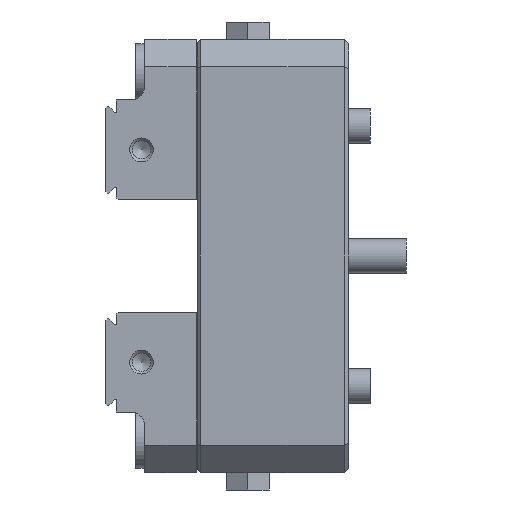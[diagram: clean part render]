
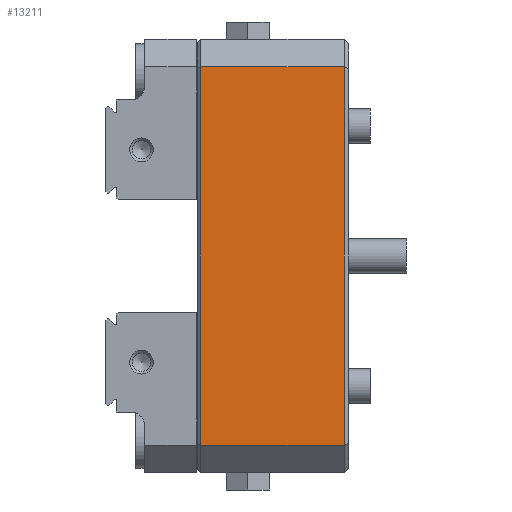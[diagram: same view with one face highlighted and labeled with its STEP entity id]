
A CAD part, left-side view. The second image highlights one B-rep face of the part: STEP entity #13211.
In plain terms, the highlighted planar face has unit normal (-1, 0, 0).
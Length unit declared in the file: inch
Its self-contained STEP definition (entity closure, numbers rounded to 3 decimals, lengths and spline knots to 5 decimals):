
#289 = CARTESIAN_POINT ( 'NONE',  ( -1.47638, 0., -1.7185 ) ) ;
#307 = EDGE_CURVE ( 'NONE', #5580, #8936, #6376, .T. ) ;
#313 = DIRECTION ( 'NONE',  ( 0., 1., 0. ) ) ;
#850 = CARTESIAN_POINT ( 'NONE',  ( -1.47638, 1.34795, 1.7185 ) ) ;
#1069 = ORIENTED_EDGE ( 'NONE', *, *, #6792, .T. ) ;
#1495 = CARTESIAN_POINT ( 'NONE',  ( -1.47638, 1.34795, -1.7185 ) ) ;
#1845 = CARTESIAN_POINT ( 'NONE',  ( -1.47638, 1.38295, 1.7185 ) ) ;
#2527 = CARTESIAN_POINT ( 'NONE',  ( -1.47638, 0.04, 1.7185 ) ) ;
#2906 = ORIENTED_EDGE ( 'NONE', *, *, #9102, .T. ) ;
#3127 = DIRECTION ( 'NONE',  ( 0., -1., 0. ) ) ;
#3920 = AXIS2_PLACEMENT_3D ( 'NONE', #4182, #8228, #313 ) ;
#4164 = LINE ( 'NONE', #289, #6503 ) ;
#4182 = CARTESIAN_POINT ( 'NONE',  ( -1.47638, 0., 1.9685 ) ) ;
#5580 = VERTEX_POINT ( 'NONE', #13969 ) ;
#5846 = DIRECTION ( 'NONE',  ( 0., 1., 0. ) ) ;
#6376 = LINE ( 'NONE', #14592, #16468 ) ;
#6503 = VECTOR ( 'NONE', #3127, 39.37008 ) ;
#6792 = EDGE_CURVE ( 'NONE', #10172, #5580, #4164, .T. ) ;
#7432 = EDGE_CURVE ( 'NONE', #8936, #8410, #13660, .T. ) ;
#7559 = ORIENTED_EDGE ( 'NONE', *, *, #7432, .T. ) ;
#8228 = DIRECTION ( 'NONE',  ( 1., 0., 0. ) ) ;
#8275 = EDGE_LOOP ( 'NONE', ( #1069, #9556, #7559, #2906 ) ) ;
#8410 = VERTEX_POINT ( 'NONE', #850 ) ;
#8718 = DIRECTION ( 'NONE',  ( 0., 0., -1. ) ) ;
#8936 = VERTEX_POINT ( 'NONE', #2527 ) ;
#9102 = EDGE_CURVE ( 'NONE', #8410, #10172, #9745, .T. ) ;
#9556 = ORIENTED_EDGE ( 'NONE', *, *, #307, .T. ) ;
#9745 = LINE ( 'NONE', #11243, #16748 ) ;
#10172 = VERTEX_POINT ( 'NONE', #1495 ) ;
#10289 = PLANE ( 'NONE',  #3920 ) ;
#11243 = CARTESIAN_POINT ( 'NONE',  ( -1.47638, 1.34795, 1.9685 ) ) ;
#12714 = FACE_OUTER_BOUND ( 'NONE', #8275, .T. ) ;
#13211 = ADVANCED_FACE ( 'NONE', ( #12714 ), #10289, .F. ) ;
#13660 = LINE ( 'NONE', #1845, #15054 ) ;
#13969 = CARTESIAN_POINT ( 'NONE',  ( -1.47638, 0.04, -1.7185 ) ) ;
#14196 = DIRECTION ( 'NONE',  ( 0., 0., 1. ) ) ;
#14592 = CARTESIAN_POINT ( 'NONE',  ( -1.47638, 0.04, 1.7185 ) ) ;
#15054 = VECTOR ( 'NONE', #5846, 39.37008 ) ;
#16468 = VECTOR ( 'NONE', #14196, 39.37008 ) ;
#16748 = VECTOR ( 'NONE', #8718, 39.37008 ) ;
